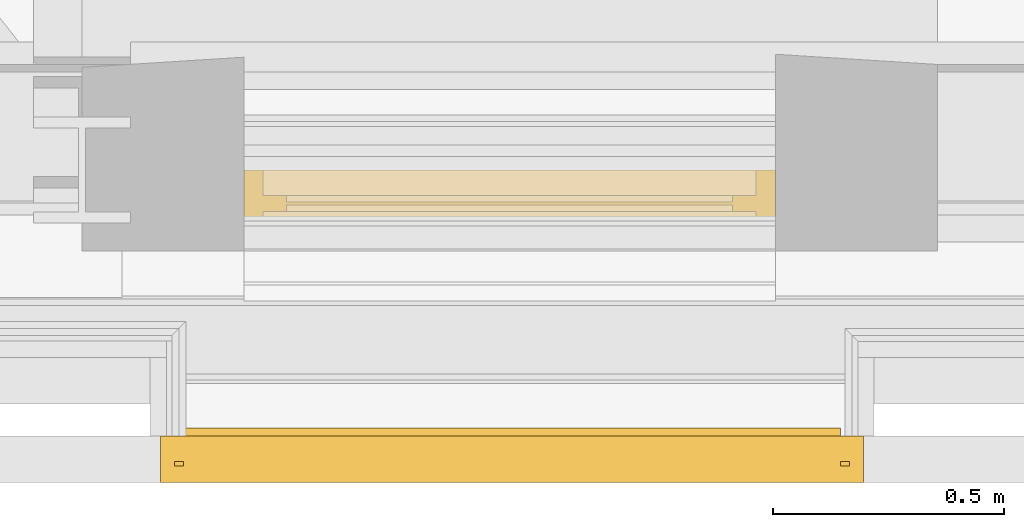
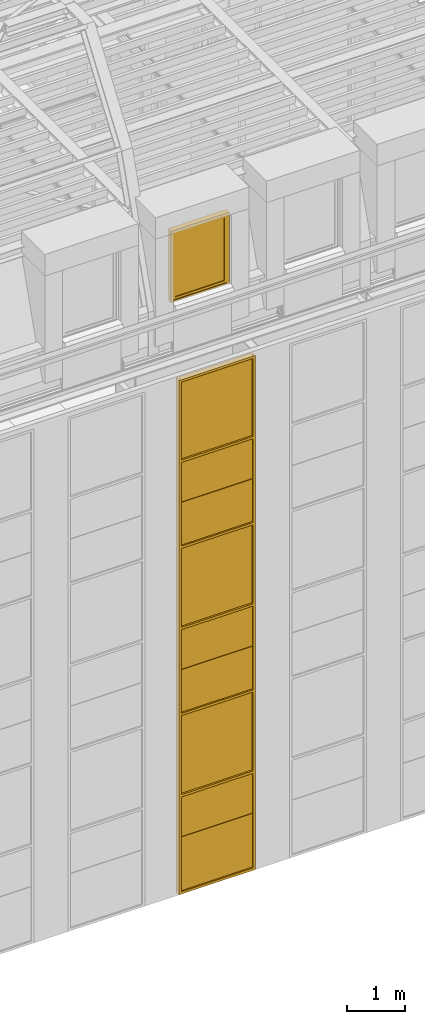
# One storey, part 108 of 183: 1 curtain wall, 1 window.
"""IFC2X3 building model written with IfcOpenShell, lengths in metres."""

from ifc_helpers import new_model, entity, si_unit, converted_unit, derived_unit, money_unit, direction, frame, origin_with_axes, place, context, subcontext, project, spatial, faceted_brep, material, type_object, element, save


model = new_model("IFC2X3")

# Units and contexts
model_context = context("Model", 3, precision=1e-05, world=origin_with_axes(), true_north=direction((0.0, 1.0)))
body_context = subcontext(model_context, "Body", "Model", "MODEL_VIEW", scale=1.0)
ifc_project = project(units=[si_unit("LENGTHUNIT", "METRE"), si_unit("AREAUNIT", "SQUARE_METRE"), si_unit("VOLUMEUNIT", "CUBIC_METRE"), si_unit("ABSORBEDDOSEUNIT", "GRAY"), si_unit("AMOUNTOFSUBSTANCEUNIT", "MOLE"), si_unit("DOSEEQUIVALENTUNIT", "SIEVERT"), si_unit("ELECTRICCAPACITANCEUNIT", "FARAD"), si_unit("ELECTRICCHARGEUNIT", "COULOMB"), si_unit("ELECTRICCONDUCTANCEUNIT", "SIEMENS"), si_unit("ELECTRICCURRENTUNIT", "AMPERE"), si_unit("ELECTRICRESISTANCEUNIT", "OHM"), si_unit("ELECTRICVOLTAGEUNIT", "VOLT"), si_unit("ENERGYUNIT", "JOULE"), si_unit("FORCEUNIT", "NEWTON"), si_unit("FREQUENCYUNIT", "HERTZ"), si_unit("ILLUMINANCEUNIT", "LUX"), si_unit("INDUCTANCEUNIT", "HENRY"), si_unit("LUMINOUSFLUXUNIT", "LUMEN"), si_unit("LUMINOUSINTENSITYUNIT", "CANDELA"), si_unit("MAGNETICFLUXDENSITYUNIT", "TESLA"), si_unit("MAGNETICFLUXUNIT", "WEBER"), si_unit("MASSUNIT", "GRAM"), converted_unit("PLANEANGLEUNIT", "degree", entity("IfcReal", 0.0174532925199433), si_unit("PLANEANGLEUNIT", "RADIAN"), dimensions=[0, 0, 0, 0, 0, 0, 0]), si_unit("POWERUNIT", "WATT"), si_unit("PRESSUREUNIT", "PASCAL"), si_unit("RADIOACTIVITYUNIT", "BECQUEREL"), si_unit("SOLIDANGLEUNIT", "STERADIAN"), si_unit("THERMODYNAMICTEMPERATUREUNIT", "KELVIN"), si_unit("TIMEUNIT", "SECOND"), derived_unit("ACCELERATIONUNIT", [(si_unit("LENGTHUNIT", "METRE"), 1), (si_unit("TIMEUNIT", "SECOND"), -2)]), derived_unit("ANGULARVELOCITYUNIT", [(converted_unit("PLANEANGLEUNIT", "degree", entity("IfcReal", 0.0174532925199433), si_unit("PLANEANGLEUNIT", "RADIAN"), dimensions=[0, 0, 0, 0, 0, 0, 0]), 1), (si_unit("TIMEUNIT", "SECOND"), -1)]), derived_unit("CURVATUREUNIT", [(converted_unit("PLANEANGLEUNIT", "degree", entity("IfcReal", 0.0174532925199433), si_unit("PLANEANGLEUNIT", "RADIAN"), dimensions=[0, 0, 0, 0, 0, 0, 0]), 1), (si_unit("LENGTHUNIT", "METRE"), -1)]), derived_unit("DYNAMICVISCOSITYUNIT", [(si_unit("PRESSUREUNIT", "PASCAL"), 1), (si_unit("TIMEUNIT", "SECOND"), 1)]), derived_unit("HEATFLUXDENSITYUNIT", [(si_unit("POWERUNIT", "WATT"), 1), (si_unit("LENGTHUNIT", "METRE"), -2)]), derived_unit("HEATINGVALUEUNIT", [(si_unit("ENERGYUNIT", "JOULE"), 1), (si_unit("MASSUNIT", "GRAM"), -1)]), derived_unit("INTEGERCOUNTRATEUNIT", [(si_unit("TIMEUNIT", "SECOND"), -1)]), derived_unit("IONCONCENTRATIONUNIT", [(si_unit("MASSUNIT", "GRAM"), 1), (si_unit("VOLUMEUNIT", "CUBIC_METRE"), -1)]), derived_unit("ISOTHERMALMOISTURECAPACITYUNIT", [(si_unit("VOLUMEUNIT", "CUBIC_METRE"), 1), (si_unit("MASSUNIT", "GRAM"), -1)]), derived_unit("KINEMATICVISCOSITYUNIT", [(si_unit("AREAUNIT", "SQUARE_METRE"), 1), (si_unit("TIMEUNIT", "SECOND"), -1)]), derived_unit("LINEARFORCEUNIT", [(si_unit("FORCEUNIT", "NEWTON"), 1), (si_unit("LENGTHUNIT", "METRE"), -1)]), derived_unit("LINEARMOMENTUNIT", [(si_unit("FORCEUNIT", "NEWTON"), 1), (si_unit("LENGTHUNIT", "METRE"), -1)]), derived_unit("LINEARSTIFFNESSUNIT", [(si_unit("FORCEUNIT", "NEWTON"), 1), (si_unit("LENGTHUNIT", "METRE"), -1)]), derived_unit("LINEARVELOCITYUNIT", [(si_unit("LENGTHUNIT", "METRE"), 1), (si_unit("TIMEUNIT", "SECOND"), -1)]), derived_unit("LUMINOUSINTENSITYDISTRIBUTIONUNIT", [(si_unit("LUMINOUSINTENSITYUNIT", "CANDELA"), 1), (si_unit("LUMINOUSFLUXUNIT", "LUMEN"), -1)]), derived_unit("MASSDENSITYUNIT", [(si_unit("MASSUNIT", "GRAM"), 1), (si_unit("VOLUMEUNIT", "CUBIC_METRE"), -1)]), derived_unit("MASSFLOWRATEUNIT", [(si_unit("MASSUNIT", "GRAM"), 1), (si_unit("TIMEUNIT", "SECOND"), -1)]), derived_unit("MASSPERLENGTHUNIT", [(si_unit("MASSUNIT", "GRAM"), 1), (si_unit("LENGTHUNIT", "METRE"), -1)]), derived_unit("MODULUSOFELASTICITYUNIT", [(si_unit("FORCEUNIT", "NEWTON"), 1), (si_unit("AREAUNIT", "SQUARE_METRE"), -1)]), derived_unit("MODULUSOFLINEARSUBGRADEREACTIONUNIT", [(si_unit("FORCEUNIT", "NEWTON"), 1), (si_unit("LENGTHUNIT", "METRE"), -2)]), derived_unit("MODULUSOFROTATIONALSUBGRADEREACTIONUNIT", [(si_unit("FORCEUNIT", "NEWTON"), 1), (si_unit("LENGTHUNIT", "METRE"), 1)]), derived_unit("MODULUSOFSUBGRADEREACTIONUNIT", [(si_unit("FORCEUNIT", "NEWTON"), 1), (si_unit("VOLUMEUNIT", "CUBIC_METRE"), -1)]), derived_unit("MOISTUREDIFFUSIVITYUNIT", [(si_unit("VOLUMEUNIT", "CUBIC_METRE"), 1), (si_unit("TIMEUNIT", "SECOND"), -1)]), derived_unit("MOLECULARWEIGHTUNIT", [(si_unit("MASSUNIT", "GRAM"), 1), (si_unit("AMOUNTOFSUBSTANCEUNIT", "MOLE"), -1)]), derived_unit("PLANARFORCEUNIT", [(si_unit("FORCEUNIT", "NEWTON"), 1), (si_unit("LENGTHUNIT", "METRE"), -2)]), derived_unit("ROTATIONALFREQUENCYUNIT", [(si_unit("TIMEUNIT", "SECOND"), -1)]), derived_unit("ROTATIONALMASSUNIT", [(si_unit("MASSUNIT", "GRAM"), 1), (si_unit("LENGTHUNIT", "METRE"), 2)]), derived_unit("ROTATIONALSTIFFNESSUNIT", [(si_unit("FORCEUNIT", "NEWTON"), 1), (si_unit("LENGTHUNIT", "METRE"), 1), (converted_unit("PLANEANGLEUNIT", "degree", entity("IfcReal", 0.0174532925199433), si_unit("PLANEANGLEUNIT", "RADIAN"), dimensions=[0, 0, 0, 0, 0, 0, 0]), -1)]), derived_unit("SECTIONAREAINTEGRALUNIT", [(si_unit("LENGTHUNIT", "METRE"), 5)]), derived_unit("SECTIONMODULUSUNIT", [(si_unit("LENGTHUNIT", "METRE"), 3)]), derived_unit("SHEARMODULUSUNIT", [(si_unit("FORCEUNIT", "NEWTON"), 1), (si_unit("AREAUNIT", "SQUARE_METRE"), -1)]), derived_unit("SOUNDPOWERUNIT", [(si_unit("ENERGYUNIT", "JOULE"), 1), (si_unit("TIMEUNIT", "SECOND"), -1)]), derived_unit("SPECIFICHEATCAPACITYUNIT", [(si_unit("FORCEUNIT", "NEWTON"), 1), (si_unit("MASSUNIT", "GRAM"), -1), (si_unit("THERMODYNAMICTEMPERATUREUNIT", "KELVIN"), -1)]), derived_unit("TEMPERATUREGRADIENTUNIT", [(si_unit("THERMODYNAMICTEMPERATUREUNIT", "KELVIN"), 1), (si_unit("LENGTHUNIT", "METRE"), -1)]), derived_unit("THERMALADMITTANCEUNIT", [(si_unit("POWERUNIT", "WATT"), 1), (si_unit("AREAUNIT", "SQUARE_METRE"), -1), (si_unit("THERMODYNAMICTEMPERATUREUNIT", "KELVIN"), -1)]), derived_unit("THERMALCONDUCTANCEUNIT", [(si_unit("POWERUNIT", "WATT"), 1), (si_unit("LENGTHUNIT", "METRE"), -1), (si_unit("THERMODYNAMICTEMPERATUREUNIT", "KELVIN"), -1)]), derived_unit("THERMALEXPANSIONCOEFFICIENTUNIT", [(si_unit("THERMODYNAMICTEMPERATUREUNIT", "KELVIN"), -1)]), derived_unit("THERMALRESISTANCEUNIT", [(si_unit("AREAUNIT", "SQUARE_METRE"), 1), (si_unit("POWERUNIT", "WATT"), -1)]), derived_unit("THERMALTRANSMITTANCEUNIT", [(si_unit("POWERUNIT", "WATT"), 1), (si_unit("AREAUNIT", "SQUARE_METRE"), -1), (si_unit("THERMODYNAMICTEMPERATUREUNIT", "KELVIN"), -1)]), derived_unit("TORQUEUNIT", [(si_unit("FORCEUNIT", "NEWTON"), 1), (si_unit("LENGTHUNIT", "METRE"), 1)]), derived_unit("VAPORPERMEABILITYUNIT", [(si_unit("MASSUNIT", "GRAM"), 1), (si_unit("TIMEUNIT", "SECOND"), -1)]), derived_unit("VOLUMETRICFLOWRATEUNIT", [(si_unit("VOLUMEUNIT", "CUBIC_METRE"), 1), (si_unit("TIMEUNIT", "SECOND"), -1)]), derived_unit("WARPINGCONSTANTUNIT", [(si_unit("LENGTHUNIT", "METRE"), 6)]), derived_unit("WARPINGMOMENTUNIT", [(si_unit("FORCEUNIT", "NEWTON"), 1), (si_unit("LENGTHUNIT", "METRE"), 2)]), money_unit("GBP")], contexts=[model_context])

# Site, building, storey
site_placement = place(None, origin_with_axes())
site = spatial("IfcSite", under=ifc_project, at=site_placement, Name="Site", CompositionType="ELEMENT")
building_placement = place(site_placement, origin_with_axes())
building = spatial("IfcBuilding", under=site, at=building_placement, Name="Building01", CompositionType="ELEMENT")
storey_placement = place(building_placement, frame((0.0, 0.0, 5.15), z_axis=(0.0, 0.0, 1.0), x_axis=(1.0, 0.0, 0.0)))
storey = spatial("IfcBuildingStorey", under=building, at=storey_placement, Name="1F", CompositionType="ELEMENT", Elevation=5.15)

# Curtain wall
ifc_material_1 = material(Name="A-CurtainWall_Frame")
curtain_wall_type = type_object("IfcCurtainWallType", Name="Pattern - Maximum Spacing", PredefinedType="NOTDEFINED")
curtain_wall_placement = place(storey_placement, frame((0.0, 0.0, -5.15), z_axis=(0.0, 0.0, 1.0), x_axis=(1.0, 0.0, 0.0)))
element("IfcCurtainWall", 1, at=curtain_wall_placement, inside=storey, type_object=curtain_wall_type, material=ifc_material_1, Name="18", ObjectType="Pattern - Maximum Spacing", context=body_context, shape_type="Brep", body=[
    faceted_brep([(5.11, 0.05, 4.0), (5.11, 0.03, 4.0), (5.11, 0.03, 5.118945), (5.11, 0.05, 5.118945), (6.57, 0.05, 4.0), (6.57, 0.03, 4.0), (6.57, 0.05, 5.118945), (6.57, 0.03, 5.118945)], [[[0, 1, 2, 3]], [[4, 5, 1, 0]], [[6, 7, 5, 4]], [[3, 2, 7, 6]], [[1, 5, 7, 2]], [[3, 6, 4, 0]]]),
    faceted_brep([(5.13, 0.045, 3.97), (5.11, 0.045, 3.97), (5.11, 0.035, 3.97), (5.13, 0.035, 3.97), (5.13, 0.0, 3.97), (5.08, 0.0, 3.97), (5.08, 0.1, 3.97), (5.13, 0.1, 3.97), (5.13, 0.1, 5.123945), (5.13, 0.045, 5.123945), (5.11, 0.045, 5.123945), (5.11, 0.035, 5.123945), (5.13, 0.035, 5.123945), (5.13, 0.0, 5.123945), (5.08, 0.0, 5.123945), (5.08, 0.1, 5.123945)], [[[0, 1, 2, 3, 4, 5, 6, 7]], [[7, 8, 9, 0]], [[0, 9, 10, 1]], [[1, 10, 11, 2]], [[2, 11, 12, 3]], [[3, 12, 13, 4]], [[4, 13, 14, 5]], [[5, 14, 15, 6]], [[6, 15, 8, 7]]]),
    faceted_brep([(6.55, 0.045, 4.0), (6.55, 0.035, 4.0), (6.55, 0.035, 4.02), (6.55, 0.0, 4.02), (6.55, 0.0, 3.97), (6.55, 0.1, 3.97), (6.55, 0.1, 4.02), (6.55, 0.045, 4.02), (5.13, 0.045, 4.02), (5.13, 0.045, 4.0), (5.13, 0.035, 4.0), (5.13, 0.035, 4.02), (5.13, 0.0, 4.02), (5.13, 0.0, 3.97), (5.13, 0.1, 3.97), (5.13, 0.1, 4.02)], [[[0, 1, 2, 3, 4, 5, 6, 7]], [[7, 8, 9, 0]], [[0, 9, 10, 1]], [[1, 10, 11, 2]], [[2, 11, 12, 3]], [[3, 12, 13, 4]], [[4, 13, 14, 5]], [[5, 14, 15, 6]], [[6, 15, 8, 7]], [[8, 15, 14, 13, 12, 11, 10, 9]]]),
    faceted_brep([(6.55, 0.045, 3.97), (6.55, 0.045, 5.123945), (6.55, 0.1, 5.123945), (6.55, 0.1, 3.97), (6.57, 0.045, 3.97), (6.57, 0.045, 5.123945), (6.57, 0.035, 3.97), (6.57, 0.035, 5.123945), (6.55, 0.035, 3.97), (6.55, 0.035, 5.123945), (6.55, 0.0, 3.97), (6.55, 0.0, 5.123945), (6.6, 0.0, 3.97), (6.6, 0.0, 5.123945), (6.6, 0.1, 3.97), (6.6, 0.1, 5.123945)], [[[0, 1, 2, 3]], [[4, 5, 1, 0]], [[6, 7, 5, 4]], [[8, 9, 7, 6]], [[10, 11, 9, 8]], [[12, 13, 11, 10]], [[14, 15, 13, 12]], [[3, 2, 15, 14]], [[14, 12, 10, 8, 6, 4, 0, 3]]]),
    faceted_brep([(5.13, 0.0625, 5.118945), (5.13, 0.0525, 5.118945), (5.13, 0.0525, 5.098945), (5.13, 0.0175, 5.098945), (5.13, 0.0175, 5.148945), (5.13, 0.0525, 5.148945), (5.13, 0.0525, 5.128945), (5.13, 0.0625, 5.128945), (5.13, 0.0625, 5.148945), (5.13, 0.1175, 5.148945), (5.13, 0.1175, 5.098945), (5.13, 0.0625, 5.098945), (6.55, 0.0625, 5.098945), (6.55, 0.0625, 5.118945), (6.55, 0.0525, 5.118945), (6.55, 0.0525, 5.098945), (6.55, 0.0175, 5.098945), (6.55, 0.0175, 5.148945), (6.55, 0.0525, 5.148945), (6.55, 0.0625, 5.128945), (6.55, 0.0625, 5.148945), (6.55, 0.0525, 5.128945), (6.55, 0.1175, 5.098945), (6.55, 0.1175, 5.148945)], [[[0, 1, 2, 3, 4, 5, 6, 7, 8, 9, 10, 11]], [[11, 12, 13, 0]], [[0, 13, 14, 1]], [[1, 14, 15, 2]], [[2, 15, 16, 3]], [[3, 16, 17, 4]], [[4, 17, 18, 5]], [[7, 19, 20, 8]], [[6, 21, 19, 7]], [[5, 18, 21, 6]], [[10, 22, 12, 11]], [[9, 23, 22, 10]], [[8, 20, 23, 9]], [[20, 19, 21, 18, 17, 16, 15, 14, 13, 12, 22, 23]]]),
    faceted_brep([(5.11, 0.05, 5.128945), (5.11, 0.03, 5.128945), (5.11, 0.03, 6.018105), (5.11, 0.05, 6.018105), (6.57, 0.05, 5.128945), (6.57, 0.03, 5.128945), (6.57, 0.05, 6.018105), (6.57, 0.03, 6.018105)], [[[0, 1, 2, 3]], [[4, 5, 1, 0]], [[6, 7, 5, 4]], [[3, 2, 7, 6]], [[1, 5, 7, 2]], [[3, 6, 4, 0]]]),
    faceted_brep([(5.08, 0.1, 6.023105), (5.08, 0.1, 5.123945), (5.08, 0.0, 5.123945), (5.08, 0.0, 6.023105), (5.13, 0.1, 6.023105), (5.13, 0.1, 5.123945), (5.13, 0.045, 6.023105), (5.13, 0.045, 5.123945), (5.11, 0.045, 6.023105), (5.11, 0.045, 5.123945), (5.11, 0.035, 6.023105), (5.11, 0.035, 5.123945), (5.13, 0.035, 6.023105), (5.13, 0.035, 5.123945), (5.13, 0.0, 6.023105), (5.13, 0.0, 5.123945)], [[[0, 1, 2, 3]], [[4, 5, 1, 0]], [[6, 7, 5, 4]], [[8, 9, 7, 6]], [[10, 11, 9, 8]], [[12, 13, 11, 10]], [[14, 15, 13, 12]], [[3, 2, 15, 14]]]),
    faceted_brep([(6.55, 0.045, 5.123945), (6.55, 0.045, 6.023105), (6.55, 0.1, 6.023105), (6.55, 0.1, 5.123945), (6.57, 0.045, 5.123945), (6.57, 0.045, 6.023105), (6.57, 0.035, 5.123945), (6.57, 0.035, 6.023105), (6.55, 0.035, 5.123945), (6.55, 0.035, 6.023105), (6.55, 0.0, 5.123945), (6.55, 0.0, 6.023105), (6.6, 0.0, 5.123945), (6.6, 0.0, 6.023105), (6.6, 0.1, 5.123945), (6.6, 0.1, 6.023105)], [[[0, 1, 2, 3]], [[4, 5, 1, 0]], [[6, 7, 5, 4]], [[8, 9, 7, 6]], [[10, 11, 9, 8]], [[12, 13, 11, 10]], [[14, 15, 13, 12]], [[3, 2, 15, 14]]]),
    faceted_brep([(5.13, 0.045, 6.018105), (5.13, 0.035, 6.018105), (5.13, 0.035, 5.998105), (5.13, 0.0, 5.998105), (5.13, 0.0, 6.048105), (5.13, 0.035, 6.048105), (5.13, 0.035, 6.028105), (5.13, 0.045, 6.028105), (5.13, 0.045, 6.048105), (5.13, 0.1, 6.048105), (5.13, 0.1, 5.998105), (5.13, 0.045, 5.998105), (6.55, 0.045, 5.998105), (6.55, 0.045, 6.018105), (6.55, 0.035, 6.018105), (6.55, 0.035, 5.998105), (6.55, 0.0, 5.998105), (6.55, 0.0, 6.048105), (6.55, 0.035, 6.048105), (6.55, 0.045, 6.028105), (6.55, 0.045, 6.048105), (6.55, 0.035, 6.028105), (6.55, 0.1, 5.998105), (6.55, 0.1, 6.048105)], [[[0, 1, 2, 3, 4, 5, 6, 7, 8, 9, 10, 11]], [[11, 12, 13, 0]], [[0, 13, 14, 1]], [[1, 14, 15, 2]], [[2, 15, 16, 3]], [[3, 16, 17, 4]], [[4, 17, 18, 5]], [[7, 19, 20, 8]], [[6, 21, 19, 7]], [[5, 18, 21, 6]], [[10, 22, 12, 11]], [[9, 23, 22, 10]], [[8, 20, 23, 9]], [[20, 19, 21, 18, 17, 16, 15, 14, 13, 12, 22, 23]]]),
    faceted_brep([(5.11, 0.045, 6.028105), (5.11, 0.035, 6.028105), (5.11, 0.035, 7.716517), (5.11, 0.045, 7.716517), (6.57, 0.045, 6.028105), (6.57, 0.035, 6.028105), (6.57, 0.045, 7.716517), (6.57, 0.035, 7.716517)], [[[0, 1, 2, 3]], [[4, 5, 1, 0]], [[6, 7, 5, 4]], [[3, 2, 7, 6]], [[1, 5, 7, 2]], [[3, 6, 4, 0]]]),
    faceted_brep([(5.08, 0.1, 7.721517), (5.08, 0.1, 6.023105), (5.08, 0.0, 6.023105), (5.08, 0.0, 7.721517), (5.13, 0.1, 7.721517), (5.13, 0.1, 6.023105), (5.13, 0.045, 7.721517), (5.13, 0.045, 6.023105), (5.11, 0.045, 7.721517), (5.11, 0.045, 6.023105), (5.11, 0.035, 7.721517), (5.11, 0.035, 6.023105), (5.13, 0.035, 7.721517), (5.13, 0.035, 6.023105), (5.13, 0.0, 7.721517), (5.13, 0.0, 6.023105)], [[[0, 1, 2, 3]], [[4, 5, 1, 0]], [[6, 7, 5, 4]], [[8, 9, 7, 6]], [[10, 11, 9, 8]], [[12, 13, 11, 10]], [[14, 15, 13, 12]], [[3, 2, 15, 14]]]),
    faceted_brep([(6.55, 0.045, 6.023105), (6.55, 0.045, 7.721517), (6.55, 0.1, 7.721517), (6.55, 0.1, 6.023105), (6.57, 0.045, 6.023105), (6.57, 0.045, 7.721517), (6.57, 0.035, 6.023105), (6.57, 0.035, 7.721517), (6.55, 0.035, 6.023105), (6.55, 0.035, 7.721517), (6.55, 0.0, 6.023105), (6.55, 0.0, 7.721517), (6.6, 0.0, 6.023105), (6.6, 0.0, 7.721517), (6.6, 0.1, 6.023105), (6.6, 0.1, 7.721517)], [[[0, 1, 2, 3]], [[4, 5, 1, 0]], [[6, 7, 5, 4]], [[8, 9, 7, 6]], [[10, 11, 9, 8]], [[12, 13, 11, 10]], [[14, 15, 13, 12]], [[3, 2, 15, 14]]]),
    faceted_brep([(5.13, 0.045, 7.716517), (5.13, 0.035, 7.716517), (5.13, 0.035, 7.696517), (5.13, 0.0, 7.696517), (5.13, 0.0, 7.746517), (5.13, 0.035, 7.746517), (5.13, 0.035, 7.726517), (5.13, 0.045, 7.726517), (5.13, 0.045, 7.746517), (5.13, 0.1, 7.746517), (5.13, 0.1, 7.696517), (5.13, 0.045, 7.696517), (6.55, 0.045, 7.696517), (6.55, 0.045, 7.716517), (6.55, 0.035, 7.716517), (6.55, 0.035, 7.696517), (6.55, 0.0, 7.696517), (6.55, 0.0, 7.746517), (6.55, 0.035, 7.746517), (6.55, 0.045, 7.726517), (6.55, 0.045, 7.746517), (6.55, 0.035, 7.726517), (6.55, 0.1, 7.696517), (6.55, 0.1, 7.746517)], [[[0, 1, 2, 3, 4, 5, 6, 7, 8, 9, 10, 11]], [[11, 12, 13, 0]], [[0, 13, 14, 1]], [[1, 14, 15, 2]], [[2, 15, 16, 3]], [[3, 16, 17, 4]], [[4, 17, 18, 5]], [[7, 19, 20, 8]], [[6, 21, 19, 7]], [[5, 18, 21, 6]], [[10, 22, 12, 11]], [[9, 23, 22, 10]], [[8, 20, 23, 9]], [[20, 19, 21, 18, 17, 16, 15, 14, 13, 12, 22, 23]]]),
    faceted_brep([(5.11, 0.05, 7.726517), (5.11, 0.03, 7.726517), (5.11, 0.03, 8.615677), (5.11, 0.05, 8.615677), (6.57, 0.05, 7.726517), (6.57, 0.03, 7.726517), (6.57, 0.05, 8.615677), (6.57, 0.03, 8.615677)], [[[0, 1, 2, 3]], [[4, 5, 1, 0]], [[6, 7, 5, 4]], [[3, 2, 7, 6]], [[1, 5, 7, 2]], [[3, 6, 4, 0]]]),
    faceted_brep([(5.08, 0.1, 8.620677), (5.08, 0.1, 7.721517), (5.08, 0.0, 7.721517), (5.08, 0.0, 8.620677), (5.13, 0.1, 8.620677), (5.13, 0.1, 7.721517), (5.13, 0.045, 8.620677), (5.13, 0.045, 7.721517), (5.11, 0.045, 8.620677), (5.11, 0.045, 7.721517), (5.11, 0.035, 8.620677), (5.11, 0.035, 7.721517), (5.13, 0.035, 8.620677), (5.13, 0.035, 7.721517), (5.13, 0.0, 8.620677), (5.13, 0.0, 7.721517)], [[[0, 1, 2, 3]], [[4, 5, 1, 0]], [[6, 7, 5, 4]], [[8, 9, 7, 6]], [[10, 11, 9, 8]], [[12, 13, 11, 10]], [[14, 15, 13, 12]], [[3, 2, 15, 14]]]),
    faceted_brep([(6.55, 0.045, 7.721517), (6.55, 0.045, 8.620677), (6.55, 0.1, 8.620677), (6.55, 0.1, 7.721517), (6.57, 0.045, 7.721517), (6.57, 0.045, 8.620677), (6.57, 0.035, 7.721517), (6.57, 0.035, 8.620677), (6.55, 0.035, 7.721517), (6.55, 0.035, 8.620677), (6.55, 0.0, 7.721517), (6.55, 0.0, 8.620677), (6.6, 0.0, 7.721517), (6.6, 0.0, 8.620677), (6.6, 0.1, 7.721517), (6.6, 0.1, 8.620677)], [[[0, 1, 2, 3]], [[4, 5, 1, 0]], [[6, 7, 5, 4]], [[8, 9, 7, 6]], [[10, 11, 9, 8]], [[12, 13, 11, 10]], [[14, 15, 13, 12]], [[3, 2, 15, 14]]]),
    faceted_brep([(5.13, 0.0625, 8.615677), (5.13, 0.0525, 8.615677), (5.13, 0.0525, 8.595677), (5.13, 0.0175, 8.595677), (5.13, 0.0175, 8.645677), (5.13, 0.0525, 8.645677), (5.13, 0.0525, 8.625677), (5.13, 0.0625, 8.625677), (5.13, 0.0625, 8.645677), (5.13, 0.1175, 8.645677), (5.13, 0.1175, 8.595677), (5.13, 0.0625, 8.595677), (6.55, 0.0625, 8.595677), (6.55, 0.0625, 8.615677), (6.55, 0.0525, 8.615677), (6.55, 0.0525, 8.595677), (6.55, 0.0175, 8.595677), (6.55, 0.0175, 8.645677), (6.55, 0.0525, 8.645677), (6.55, 0.0625, 8.625677), (6.55, 0.0625, 8.645677), (6.55, 0.0525, 8.625677), (6.55, 0.1175, 8.595677), (6.55, 0.1175, 8.645677)], [[[0, 1, 2, 3, 4, 5, 6, 7, 8, 9, 10, 11]], [[11, 12, 13, 0]], [[0, 13, 14, 1]], [[1, 14, 15, 2]], [[2, 15, 16, 3]], [[3, 16, 17, 4]], [[4, 17, 18, 5]], [[7, 19, 20, 8]], [[6, 21, 19, 7]], [[5, 18, 21, 6]], [[10, 22, 12, 11]], [[9, 23, 22, 10]], [[8, 20, 23, 9]], [[20, 19, 21, 18, 17, 16, 15, 14, 13, 12, 22, 23]]]),
    faceted_brep([(5.11, 0.05, 8.625677), (5.11, 0.03, 8.625677), (5.11, 0.03, 9.514837), (5.11, 0.05, 9.514837), (6.57, 0.05, 8.625677), (6.57, 0.03, 8.625677), (6.57, 0.05, 9.514837), (6.57, 0.03, 9.514837)], [[[0, 1, 2, 3]], [[4, 5, 1, 0]], [[6, 7, 5, 4]], [[3, 2, 7, 6]], [[1, 5, 7, 2]], [[3, 6, 4, 0]]]),
    faceted_brep([(5.08, 0.1, 9.519837), (5.08, 0.1, 8.620677), (5.08, 0.0, 8.620677), (5.08, 0.0, 9.519837), (5.13, 0.1, 9.519837), (5.13, 0.1, 8.620677), (5.13, 0.045, 9.519837), (5.13, 0.045, 8.620677), (5.11, 0.045, 9.519837), (5.11, 0.045, 8.620677), (5.11, 0.035, 9.519837), (5.11, 0.035, 8.620677), (5.13, 0.035, 9.519837), (5.13, 0.035, 8.620677), (5.13, 0.0, 9.519837), (5.13, 0.0, 8.620677)], [[[0, 1, 2, 3]], [[4, 5, 1, 0]], [[6, 7, 5, 4]], [[8, 9, 7, 6]], [[10, 11, 9, 8]], [[12, 13, 11, 10]], [[14, 15, 13, 12]], [[3, 2, 15, 14]]]),
    faceted_brep([(6.55, 0.045, 8.620677), (6.55, 0.045, 9.519837), (6.55, 0.1, 9.519837), (6.55, 0.1, 8.620677), (6.57, 0.045, 8.620677), (6.57, 0.045, 9.519837), (6.57, 0.035, 8.620677), (6.57, 0.035, 9.519837), (6.55, 0.035, 8.620677), (6.55, 0.035, 9.519837), (6.55, 0.0, 8.620677), (6.55, 0.0, 9.519837), (6.6, 0.0, 8.620677), (6.6, 0.0, 9.519837), (6.6, 0.1, 8.620677), (6.6, 0.1, 9.519837)], [[[0, 1, 2, 3]], [[4, 5, 1, 0]], [[6, 7, 5, 4]], [[8, 9, 7, 6]], [[10, 11, 9, 8]], [[12, 13, 11, 10]], [[14, 15, 13, 12]], [[3, 2, 15, 14]]]),
    faceted_brep([(5.13, 0.045, 9.514837), (5.13, 0.035, 9.514837), (5.13, 0.035, 9.494837), (5.13, 0.0, 9.494837), (5.13, 0.0, 9.544837), (5.13, 0.035, 9.544837), (5.13, 0.035, 9.524837), (5.13, 0.045, 9.524837), (5.13, 0.045, 9.544837), (5.13, 0.1, 9.544837), (5.13, 0.1, 9.494837), (5.13, 0.045, 9.494837), (6.55, 0.045, 9.494837), (6.55, 0.045, 9.514837), (6.55, 0.035, 9.514837), (6.55, 0.035, 9.494837), (6.55, 0.0, 9.494837), (6.55, 0.0, 9.544837), (6.55, 0.035, 9.544837), (6.55, 0.045, 9.524837), (6.55, 0.045, 9.544837), (6.55, 0.035, 9.524837), (6.55, 0.1, 9.494837), (6.55, 0.1, 9.544837)], [[[0, 1, 2, 3, 4, 5, 6, 7, 8, 9, 10, 11]], [[11, 12, 13, 0]], [[0, 13, 14, 1]], [[1, 14, 15, 2]], [[2, 15, 16, 3]], [[3, 16, 17, 4]], [[4, 17, 18, 5]], [[7, 19, 20, 8]], [[6, 21, 19, 7]], [[5, 18, 21, 6]], [[10, 22, 12, 11]], [[9, 23, 22, 10]], [[8, 20, 23, 9]], [[20, 19, 21, 18, 17, 16, 15, 14, 13, 12, 22, 23]]]),
    faceted_brep([(5.11, 0.045, 9.524837), (5.11, 0.035, 9.524837), (5.11, 0.035, 11.213249), (5.11, 0.045, 11.213249), (6.57, 0.045, 9.524837), (6.57, 0.035, 9.524837), (6.57, 0.045, 11.213249), (6.57, 0.035, 11.213249)], [[[0, 1, 2, 3]], [[4, 5, 1, 0]], [[6, 7, 5, 4]], [[3, 2, 7, 6]], [[1, 5, 7, 2]], [[3, 6, 4, 0]]]),
    faceted_brep([(5.08, 0.1, 11.218249), (5.08, 0.1, 9.519837), (5.08, 0.0, 9.519837), (5.08, 0.0, 11.218249), (5.13, 0.1, 11.218249), (5.13, 0.1, 9.519837), (5.13, 0.045, 11.218249), (5.13, 0.045, 9.519837), (5.11, 0.045, 11.218249), (5.11, 0.045, 9.519837), (5.11, 0.035, 11.218249), (5.11, 0.035, 9.519837), (5.13, 0.035, 11.218249), (5.13, 0.035, 9.519837), (5.13, 0.0, 11.218249), (5.13, 0.0, 9.519837)], [[[0, 1, 2, 3]], [[4, 5, 1, 0]], [[6, 7, 5, 4]], [[8, 9, 7, 6]], [[10, 11, 9, 8]], [[12, 13, 11, 10]], [[14, 15, 13, 12]], [[3, 2, 15, 14]]]),
    faceted_brep([(6.55, 0.045, 9.519837), (6.55, 0.045, 11.218249), (6.55, 0.1, 11.218249), (6.55, 0.1, 9.519837), (6.57, 0.045, 9.519837), (6.57, 0.045, 11.218249), (6.57, 0.035, 9.519837), (6.57, 0.035, 11.218249), (6.55, 0.035, 9.519837), (6.55, 0.035, 11.218249), (6.55, 0.0, 9.519837), (6.55, 0.0, 11.218249), (6.6, 0.0, 9.519837), (6.6, 0.0, 11.218249), (6.6, 0.1, 9.519837), (6.6, 0.1, 11.218249)], [[[0, 1, 2, 3]], [[4, 5, 1, 0]], [[6, 7, 5, 4]], [[8, 9, 7, 6]], [[10, 11, 9, 8]], [[12, 13, 11, 10]], [[14, 15, 13, 12]], [[3, 2, 15, 14]]]),
    faceted_brep([(5.13, 0.045, 11.213249), (5.13, 0.035, 11.213249), (5.13, 0.035, 11.193249), (5.13, 0.0, 11.193249), (5.13, 0.0, 11.243249), (5.13, 0.035, 11.243249), (5.13, 0.035, 11.223249), (5.13, 0.045, 11.223249), (5.13, 0.045, 11.243249), (5.13, 0.1, 11.243249), (5.13, 0.1, 11.193249), (5.13, 0.045, 11.193249), (6.55, 0.045, 11.193249), (6.55, 0.045, 11.213249), (6.55, 0.035, 11.213249), (6.55, 0.035, 11.193249), (6.55, 0.0, 11.193249), (6.55, 0.0, 11.243249), (6.55, 0.035, 11.243249), (6.55, 0.045, 11.223249), (6.55, 0.045, 11.243249), (6.55, 0.035, 11.223249), (6.55, 0.1, 11.193249), (6.55, 0.1, 11.243249)], [[[0, 1, 2, 3, 4, 5, 6, 7, 8, 9, 10, 11]], [[11, 12, 13, 0]], [[0, 13, 14, 1]], [[1, 14, 15, 2]], [[2, 15, 16, 3]], [[3, 16, 17, 4]], [[4, 17, 18, 5]], [[7, 19, 20, 8]], [[6, 21, 19, 7]], [[5, 18, 21, 6]], [[10, 22, 12, 11]], [[9, 23, 22, 10]], [[8, 20, 23, 9]], [[20, 19, 21, 18, 17, 16, 15, 14, 13, 12, 22, 23]]]),
    faceted_brep([(5.11, 0.05, 11.223249), (5.11, 0.03, 11.223249), (5.11, 0.03, 12.112409), (5.11, 0.05, 12.112409), (6.57, 0.05, 11.223249), (6.57, 0.03, 11.223249), (6.57, 0.05, 12.112409), (6.57, 0.03, 12.112409)], [[[0, 1, 2, 3]], [[4, 5, 1, 0]], [[6, 7, 5, 4]], [[3, 2, 7, 6]], [[1, 5, 7, 2]], [[3, 6, 4, 0]]]),
    faceted_brep([(5.08, 0.1, 12.117409), (5.08, 0.1, 11.218249), (5.08, 0.0, 11.218249), (5.08, 0.0, 12.117409), (5.13, 0.1, 12.117409), (5.13, 0.1, 11.218249), (5.13, 0.045, 12.117409), (5.13, 0.045, 11.218249), (5.11, 0.045, 12.117409), (5.11, 0.045, 11.218249), (5.11, 0.035, 12.117409), (5.11, 0.035, 11.218249), (5.13, 0.035, 12.117409), (5.13, 0.035, 11.218249), (5.13, 0.0, 12.117409), (5.13, 0.0, 11.218249)], [[[0, 1, 2, 3]], [[4, 5, 1, 0]], [[6, 7, 5, 4]], [[8, 9, 7, 6]], [[10, 11, 9, 8]], [[12, 13, 11, 10]], [[14, 15, 13, 12]], [[3, 2, 15, 14]]]),
    faceted_brep([(6.55, 0.045, 11.218249), (6.55, 0.045, 12.117409), (6.55, 0.1, 12.117409), (6.55, 0.1, 11.218249), (6.57, 0.045, 11.218249), (6.57, 0.045, 12.117409), (6.57, 0.035, 11.218249), (6.57, 0.035, 12.117409), (6.55, 0.035, 11.218249), (6.55, 0.035, 12.117409), (6.55, 0.0, 11.218249), (6.55, 0.0, 12.117409), (6.6, 0.0, 11.218249), (6.6, 0.0, 12.117409), (6.6, 0.1, 11.218249), (6.6, 0.1, 12.117409)], [[[0, 1, 2, 3]], [[4, 5, 1, 0]], [[6, 7, 5, 4]], [[8, 9, 7, 6]], [[10, 11, 9, 8]], [[12, 13, 11, 10]], [[14, 15, 13, 12]], [[3, 2, 15, 14]]]),
    faceted_brep([(5.13, 0.0625, 12.112409), (5.13, 0.0525, 12.112409), (5.13, 0.0525, 12.092409), (5.13, 0.0175, 12.092409), (5.13, 0.0175, 12.142409), (5.13, 0.0525, 12.142409), (5.13, 0.0525, 12.122409), (5.13, 0.0625, 12.122409), (5.13, 0.0625, 12.142409), (5.13, 0.1175, 12.142409), (5.13, 0.1175, 12.092409), (5.13, 0.0625, 12.092409), (6.55, 0.0625, 12.092409), (6.55, 0.0625, 12.112409), (6.55, 0.0525, 12.112409), (6.55, 0.0525, 12.092409), (6.55, 0.0175, 12.092409), (6.55, 0.0175, 12.142409), (6.55, 0.0525, 12.142409), (6.55, 0.0625, 12.122409), (6.55, 0.0625, 12.142409), (6.55, 0.0525, 12.122409), (6.55, 0.1175, 12.092409), (6.55, 0.1175, 12.142409)], [[[0, 1, 2, 3, 4, 5, 6, 7, 8, 9, 10, 11]], [[11, 12, 13, 0]], [[0, 13, 14, 1]], [[1, 14, 15, 2]], [[2, 15, 16, 3]], [[3, 16, 17, 4]], [[4, 17, 18, 5]], [[7, 19, 20, 8]], [[6, 21, 19, 7]], [[5, 18, 21, 6]], [[10, 22, 12, 11]], [[9, 23, 22, 10]], [[8, 20, 23, 9]], [[20, 19, 21, 18, 17, 16, 15, 14, 13, 12, 22, 23]]]),
    faceted_brep([(6.57, 0.045, 14.69), (6.57, 0.035, 14.69), (6.57, 0.035, 13.021569), (6.57, 0.045, 13.021569), (5.11, 0.045, 14.69), (5.11, 0.035, 14.69), (5.11, 0.045, 13.021569), (5.11, 0.035, 13.021569)], [[[0, 1, 2, 3]], [[4, 5, 1, 0]], [[6, 7, 5, 4]], [[3, 2, 7, 6]], [[1, 5, 7, 2]], [[3, 6, 4, 0]]]),
    faceted_brep([(6.55, 0.045, 14.72), (6.57, 0.045, 14.72), (6.57, 0.035, 14.72), (6.55, 0.035, 14.72), (6.55, 0.0, 14.72), (6.6, 0.0, 14.72), (6.6, 0.1, 14.72), (6.55, 0.1, 14.72), (6.55, 0.1, 13.016569), (6.55, 0.045, 13.016569), (6.57, 0.045, 13.016569), (6.57, 0.035, 13.016569), (6.55, 0.035, 13.016569), (6.55, 0.0, 13.016569), (6.6, 0.0, 13.016569), (6.6, 0.1, 13.016569)], [[[0, 1, 2, 3, 4, 5, 6, 7]], [[7, 8, 9, 0]], [[0, 9, 10, 1]], [[1, 10, 11, 2]], [[2, 11, 12, 3]], [[3, 12, 13, 4]], [[4, 13, 14, 5]], [[5, 14, 15, 6]], [[6, 15, 8, 7]]]),
    faceted_brep([(5.13, 0.1, 14.67), (5.13, 0.045, 14.67), (5.13, 0.045, 14.69), (5.13, 0.035, 14.69), (5.13, 0.035, 14.67), (5.13, 0.0, 14.67), (5.13, 0.0, 14.72), (5.13, 0.1, 14.72), (6.55, 0.1, 14.72), (6.55, 0.1, 14.67), (6.55, 0.045, 14.67), (6.55, 0.045, 14.69), (6.55, 0.035, 14.69), (6.55, 0.035, 14.67), (6.55, 0.0, 14.67), (6.55, 0.0, 14.72)], [[[0, 1, 2, 3, 4, 5, 6, 7]], [[7, 8, 9, 0]], [[0, 9, 10, 1]], [[1, 10, 11, 2]], [[2, 11, 12, 3]], [[3, 12, 13, 4]], [[4, 13, 14, 5]], [[5, 14, 15, 6]], [[6, 15, 8, 7]], [[8, 15, 14, 13, 12, 11, 10, 9]]]),
    faceted_brep([(5.13, 0.045, 14.72), (5.13, 0.045, 13.016569), (5.13, 0.1, 13.016569), (5.13, 0.1, 14.72), (5.11, 0.045, 14.72), (5.11, 0.045, 13.016569), (5.11, 0.035, 14.72), (5.11, 0.035, 13.016569), (5.13, 0.035, 14.72), (5.13, 0.035, 13.016569), (5.13, 0.0, 14.72), (5.13, 0.0, 13.016569), (5.08, 0.0, 14.72), (5.08, 0.0, 13.016569), (5.08, 0.1, 14.72), (5.08, 0.1, 13.016569)], [[[0, 1, 2, 3]], [[4, 5, 1, 0]], [[6, 7, 5, 4]], [[8, 9, 7, 6]], [[10, 11, 9, 8]], [[12, 13, 11, 10]], [[14, 15, 13, 12]], [[3, 2, 15, 14]], [[14, 12, 10, 8, 6, 4, 0, 3]]]),
    faceted_brep([(6.55, 0.035, 13.011569), (6.55, 0.045, 13.011569), (6.55, 0.045, 12.991569), (6.55, 0.1, 12.991569), (6.55, 0.1, 13.041569), (6.55, 0.045, 13.041569), (6.55, 0.045, 13.021569), (6.55, 0.035, 13.021569), (6.55, 0.035, 13.041569), (6.55, 0.0, 13.041569), (6.55, 0.0, 12.991569), (6.55, 0.035, 12.991569), (5.13, 0.035, 12.991569), (5.13, 0.035, 13.011569), (5.13, 0.045, 13.011569), (5.13, 0.045, 12.991569), (5.13, 0.1, 12.991569), (5.13, 0.1, 13.041569), (5.13, 0.045, 13.041569), (5.13, 0.035, 13.021569), (5.13, 0.035, 13.041569), (5.13, 0.045, 13.021569), (5.13, 0.0, 12.991569), (5.13, 0.0, 13.041569)], [[[0, 1, 2, 3, 4, 5, 6, 7, 8, 9, 10, 11]], [[11, 12, 13, 0]], [[0, 13, 14, 1]], [[1, 14, 15, 2]], [[2, 15, 16, 3]], [[3, 16, 17, 4]], [[4, 17, 18, 5]], [[7, 19, 20, 8]], [[6, 21, 19, 7]], [[5, 18, 21, 6]], [[10, 22, 12, 11]], [[9, 23, 22, 10]], [[8, 20, 23, 9]], [[20, 19, 21, 18, 17, 16, 15, 14, 13, 12, 22, 23]]]),
    faceted_brep([(5.11, 0.05, 12.122409), (5.11, 0.03, 12.122409), (5.11, 0.03, 13.011569), (5.11, 0.05, 13.011569), (6.57, 0.05, 12.122409), (6.57, 0.03, 12.122409), (6.57, 0.05, 13.011569), (6.57, 0.03, 13.011569)], [[[0, 1, 2, 3]], [[4, 5, 1, 0]], [[6, 7, 5, 4]], [[3, 2, 7, 6]], [[1, 5, 7, 2]], [[3, 6, 4, 0]]]),
    faceted_brep([(5.08, 0.1, 13.016569), (5.08, 0.1, 12.117409), (5.08, 0.0, 12.117409), (5.08, 0.0, 13.016569), (5.13, 0.1, 13.016569), (5.13, 0.1, 12.117409), (5.13, 0.045, 13.016569), (5.13, 0.045, 12.117409), (5.11, 0.045, 13.016569), (5.11, 0.045, 12.117409), (5.11, 0.035, 13.016569), (5.11, 0.035, 12.117409), (5.13, 0.035, 13.016569), (5.13, 0.035, 12.117409), (5.13, 0.0, 13.016569), (5.13, 0.0, 12.117409)], [[[0, 1, 2, 3]], [[4, 5, 1, 0]], [[6, 7, 5, 4]], [[8, 9, 7, 6]], [[10, 11, 9, 8]], [[12, 13, 11, 10]], [[14, 15, 13, 12]], [[3, 2, 15, 14]]]),
    faceted_brep([(6.55, 0.045, 12.117409), (6.55, 0.045, 13.016569), (6.55, 0.1, 13.016569), (6.55, 0.1, 12.117409), (6.57, 0.045, 12.117409), (6.57, 0.045, 13.016569), (6.57, 0.035, 12.117409), (6.57, 0.035, 13.016569), (6.55, 0.035, 12.117409), (6.55, 0.035, 13.016569), (6.55, 0.0, 12.117409), (6.55, 0.0, 13.016569), (6.6, 0.0, 12.117409), (6.6, 0.0, 13.016569), (6.6, 0.1, 12.117409), (6.6, 0.1, 13.016569)], [[[0, 1, 2, 3]], [[4, 5, 1, 0]], [[6, 7, 5, 4]], [[8, 9, 7, 6]], [[10, 11, 9, 8]], [[12, 13, 11, 10]], [[14, 15, 13, 12]], [[3, 2, 15, 14]]]),
])

# Space
space_placement = place(storey_placement, frame((12.175, 4.189428, 9.81), z_axis=(0.0, 0.0, 1.0), x_axis=(0.0, 1.0, 0.0)))
space = spatial("IfcSpace", under=storey, at=space_placement, Name="25", CompositionType="ELEMENT", InteriorOrExteriorSpace="NOTDEFINED")

# Window
ifc_material_2 = material(Name="A_BSUK_Windows")
window_style = type_object("IfcWindowStyle", Name="A-Awning", ConstructionType="NOTDEFINED", OperationType="USERDEFINED", ParameterTakesPrecedence=False, Sizeable=False)
window_placement = place(storey_placement, frame((6.410024, 0.549939, 10.78), z_axis=(0.0, 0.0, 1.0), x_axis=(1.0, 0.0, 0.0)))
element("IfcWindow", 2, at=window_placement, inside=space, type_object=window_style, material=ifc_material_2, Name="4.03", ObjectType="A-Awning", OverallHeight=1.50000000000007, OverallWidth=1.15000000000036, context=body_context, shape_type="Brep", body=[
    faceted_brep([(-1.108, 0.0254, 0.042), (-0.042, 0.0254, 0.042), (-0.042, 0.1254, 0.042), (-1.108, 0.1254, 0.042), (-1.108, 0.0254, 1.458), (-1.108, 0.1254, 1.458), (-0.042, 0.0254, 1.458), (-0.042, 0.1254, 1.458), (0.0, 0.0254, 0.0), (0.0, 0.0254, 1.5), (-1.15, 0.0254, 1.5), (-1.15, 0.0254, 0.0), (0.0, 0.1254, 1.5), (-1.15, 0.1254, 1.5), (-1.15, 0.1254, 0.0), (0.0, 0.1254, 0.0)], [[[0, 1, 2, 3]], [[4, 0, 3, 5]], [[6, 4, 5, 7]], [[8, 9, 10, 11], [4, 6, 1, 0]], [[1, 6, 7, 2]], [[12, 13, 10, 9]], [[14, 15, 8, 11]], [[13, 14, 11, 10]], [[13, 12, 15, 14], [2, 7, 5, 3]], [[15, 12, 9, 8]]]),
    faceted_brep([(-1.0572, 0.0354, 0.0928), (-0.0928, 0.0354, 0.0928), (-0.0928, 0.0704, 0.0928), (-1.0572, 0.0704, 0.0928), (-1.0572, 0.0354, 1.4072), (-1.0572, 0.0704, 1.4072), (-0.0928, 0.0354, 1.4072), (-0.0928, 0.0704, 1.4072), (-1.108, 0.0704, 1.458), (-0.042, 0.0704, 1.458), (-0.042, 0.0704, 0.042), (-1.108, 0.0704, 0.042), (-1.108, 0.0354, 1.458), (-0.042, 0.0354, 1.458), (-0.042, 0.0354, 0.042), (-1.108, 0.0354, 0.042)], [[[0, 1, 2, 3]], [[4, 0, 3, 5]], [[6, 4, 5, 7]], [[8, 9, 10, 11], [2, 7, 5, 3]], [[9, 8, 12, 13]], [[10, 9, 13, 14]], [[11, 10, 14, 15]], [[8, 11, 15, 12]], [[14, 13, 12, 15], [4, 6, 1, 0]], [[1, 6, 7, 2]]]),
    faceted_brep([(-0.0928, 0.049725, 0.0928), (-0.0928, 0.056075, 0.0928), (-0.0928, 0.056075, 1.4072), (-0.0928, 0.049725, 1.4072), (-1.0572, 0.049725, 1.4072), (-1.0572, 0.056075, 1.4072), (-1.0572, 0.056075, 0.0928), (-1.0572, 0.049725, 0.0928)], [[[0, 1, 2, 3]], [[4, 5, 6, 7]], [[3, 2, 5, 4]], [[3, 4, 7, 0]], [[7, 6, 1, 0]], [[1, 6, 5, 2]]]),
])

save(model, "model.ifc")
